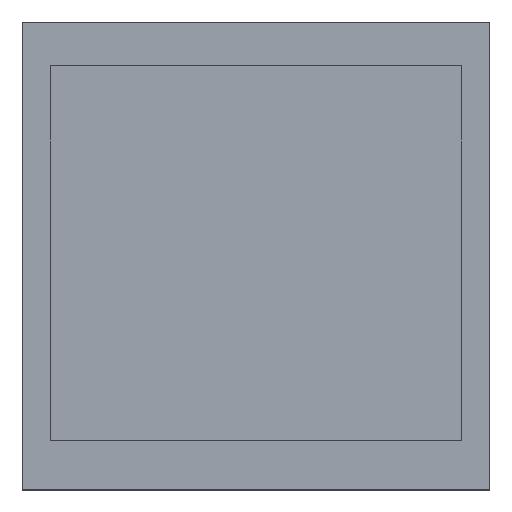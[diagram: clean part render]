
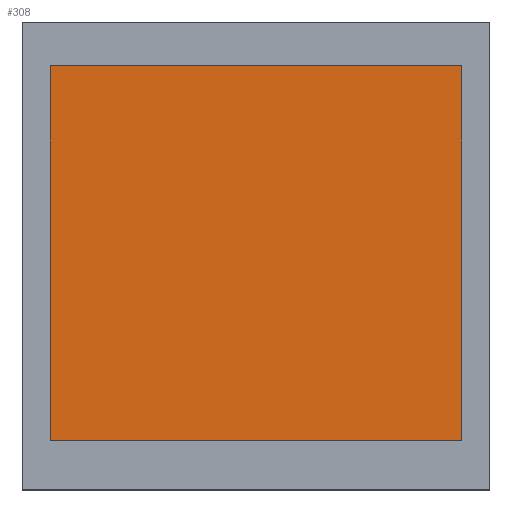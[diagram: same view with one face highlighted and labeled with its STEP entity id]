
A CAD part, top view. The second image highlights one B-rep face of the part: STEP entity #308.
In plain terms, the highlighted planar face has unit normal (0, 0, 1).
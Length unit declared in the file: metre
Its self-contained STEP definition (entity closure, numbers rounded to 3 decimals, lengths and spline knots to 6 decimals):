
#22=LINE('',#485,#51);
#24=LINE('',#489,#53);
#26=LINE('',#493,#55);
#28=LINE('',#496,#57);
#51=VECTOR('',#397,0.01);
#53=VECTOR('',#401,0.01);
#55=VECTOR('',#405,0.01);
#57=VECTOR('',#409,0.01);
#95=FACE_OUTER_BOUND('',#118,.T.);
#118=EDGE_LOOP('',(#241,#242,#243,#244));
#152=VERTEX_POINT('',#482);
#153=VERTEX_POINT('',#484);
#154=VERTEX_POINT('',#488);
#155=VERTEX_POINT('',#492);
#181=EDGE_CURVE('',#153,#152,#22,.T.);
#183=EDGE_CURVE('',#154,#153,#24,.T.);
#185=EDGE_CURVE('',#155,#154,#26,.T.);
#187=EDGE_CURVE('',#152,#155,#28,.T.);
#241=ORIENTED_EDGE('',*,*,#187,.T.);
#242=ORIENTED_EDGE('',*,*,#185,.T.);
#243=ORIENTED_EDGE('',*,*,#183,.T.);
#244=ORIENTED_EDGE('',*,*,#181,.T.);
#292=PLANE('',#350);
#308=ADVANCED_FACE('',(#95),#292,.T.);
#350=AXIS2_PLACEMENT_3D('',#497,#410,#411);
#397=DIRECTION('',(0.,-1.,0.));
#401=DIRECTION('',(-1.,0.,0.));
#405=DIRECTION('',(0.,1.,0.));
#409=DIRECTION('',(1.,0.,0.));
#410=DIRECTION('center_axis',(0.,0.,1.));
#411=DIRECTION('ref_axis',(1.,0.,0.));
#482=CARTESIAN_POINT('',(-0.11,-0.1,0.9));
#484=CARTESIAN_POINT('',(-0.11,0.1,0.9));
#485=CARTESIAN_POINT('',(-0.11,0.1,0.9));
#488=CARTESIAN_POINT('',(0.11,0.1,0.9));
#489=CARTESIAN_POINT('',(0.11,0.1,0.9));
#492=CARTESIAN_POINT('',(0.11,-0.1,0.9));
#493=CARTESIAN_POINT('',(0.11,-0.1,0.9));
#496=CARTESIAN_POINT('',(-0.11,-0.1,0.9));
#497=CARTESIAN_POINT('Origin',(0.,0.,0.9));
